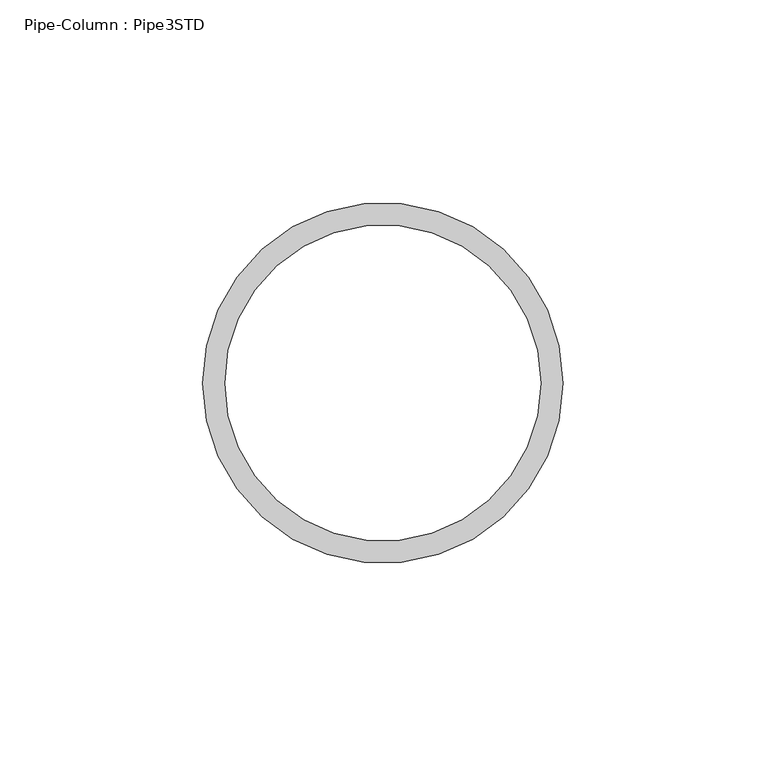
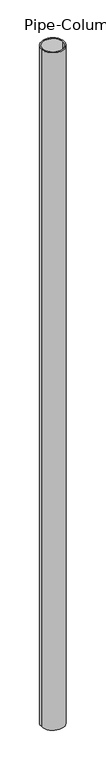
"""IFC4 building model written with IfcOpenShell, lengths in millimetres: column geometry, Pipe-Column : Pipe3STD."""

import ifcopenshell
import ifcopenshell.guid

model = None  # the IFC model being written
_history = None  # IfcOwnerHistory: only IFC2X3 demands one
_inside = {}  # id of a spatial element -> (the spatial element, [elements in it])
_under = {}  # id of a project, library or spatial element -> (it, [spatial elements below it])
_declared = {}  # id of a project -> (the project, [libraries it declares])
_typed = {}  # id of a type object -> (the type object, [elements of that type])
_made_of = {}  # id of a material, layer set ... -> (it, [elements and type objects made of it])


def new_model(schema):
    """Start an empty IFC model of exactly this schema.

    Asked for "IFC4X3", IfcOpenShell would pick the latest addendum, in which some entities
    have other attributes; the version numbers below select the first issue.
    IFC2X3 requires an IfcOwnerHistory on every rooted entity: one is made here for all.
    """
    global model, _history
    if schema == "IFC4X3":
        model = ifcopenshell.file(schema_version=(4, 3, 0, 0))
    else:
        model = ifcopenshell.file(schema=schema)
    _inside.clear()
    _under.clear()
    _declared.clear()
    _typed.clear()
    _made_of.clear()
    _history = None
    if model.schema == "IFC2X3":
        org = make("IfcOrganization", Name="unknown")
        user = make(
            "IfcPersonAndOrganization",
            ThePerson=make("IfcPerson", FamilyName="unknown"),
            TheOrganization=org,
        )
        app = make(
            "IfcApplication",
            ApplicationDeveloper=org,
            Version="unknown",
            ApplicationFullName="unknown",
            ApplicationIdentifier="unknown",
        )
        _history = make(
            "IfcOwnerHistory",
            OwningUser=user,
            OwningApplication=app,
            ChangeAction="ADDED",
            CreationDate=0,
        )
    return model


def make(cls, **values):
    """One entity of the class cls with the attributes given. An attribute that is None is left unset."""
    return model.create_entity(
        cls, **{name: value for name, value in values.items() if value is not None}
    )


def rooted(cls, **values):
    """An entity with a GlobalId (a new one), such as an element, a storey or a relation."""
    return make(cls, GlobalId=ifcopenshell.guid.new(), OwnerHistory=_history, **values)


def si_unit(unit_type, name, prefix=None):
    """IfcSIUnit, for example si_unit("LENGTHUNIT", "METRE", prefix="MILLI")."""
    return make("IfcSIUnit", UnitType=unit_type, Prefix=prefix, Name=name)


def assignment(units):
    """IfcUnitAssignment: the units of a project."""
    return None if units is None else make("IfcUnitAssignment", Units=units)


def point(xyz):
    """IfcCartesianPoint."""
    return None if xyz is None else make("IfcCartesianPoint", Coordinates=xyz)


def direction(xyz):
    """IfcDirection."""
    return None if xyz is None else make("IfcDirection", DirectionRatios=xyz)


def frame(location, z_axis=None, x_axis=None):
    """IfcAxis2Placement3D, a coordinate frame: its origin and axes. An axis left out is left unset."""
    return make(
        "IfcAxis2Placement3D",
        Location=point(location),
        Axis=direction(z_axis),
        RefDirection=direction(x_axis),
    )


def frame_2d(location, x_axis=None):
    """IfcAxis2Placement2D, a coordinate frame in the plane: its origin and x axis."""
    return make(
        "IfcAxis2Placement2D", Location=point(location), RefDirection=direction(x_axis)
    )


def origin():
    """The frame at (0, 0, 0) with its axes left unset."""
    return frame((0.0, 0.0, 0.0))


def origin_2d():
    """The frame at (0, 0) in the plane with its x axis left unset."""
    return frame_2d((0.0, 0.0))


def place(relative_to, where):
    """IfcLocalPlacement: puts the frame where relative to a parent placement (None: the world)."""
    return make(
        "IfcLocalPlacement", PlacementRelTo=relative_to, RelativePlacement=where
    )


def context(
    kind, dimensions, precision=None, world=None, true_north=None, identifier=None
):
    """IfcGeometricRepresentationContext, for example the 3D "Model" context."""
    return make(
        "IfcGeometricRepresentationContext",
        ContextIdentifier=identifier,
        ContextType=kind,
        CoordinateSpaceDimension=dimensions,
        Precision=precision,
        WorldCoordinateSystem=world,
        TrueNorth=true_north,
    )


def project(units=None, contexts=None):
    """IfcProject with its units and contexts."""
    return rooted(
        "IfcProject",
        Name="project",
        RepresentationContexts=contexts,
        UnitsInContext=assignment(units),
    )


def spatial(cls, under=None, at=None, **own):
    """A site, building, storey or space (cls), placed at a placement, below another one or the project."""
    s = rooted(cls, ObjectPlacement=at, **own)
    if under is not None:
        _under.setdefault(under.id(), (under, []))[1].append(s)
    return s


def circle_curve(where, radius):
    """IfcCircle in the frame where."""
    return make("IfcCircle", Position=where, Radius=radius)


def trimmed(basis, trim1, trim2, sense, master):
    """IfcTrimmedCurve: the piece of a basis curve between two trims."""
    return make(
        "IfcTrimmedCurve",
        BasisCurve=basis,
        Trim1=trim1,
        Trim2=trim2,
        SenseAgreement=sense,
        MasterRepresentation=master,
    )


def segment(curve, same_sense, transition):
    """IfcCompositeCurveSegment."""
    return make(
        "IfcCompositeCurveSegment",
        Transition=transition,
        SameSense=same_sense,
        ParentCurve=curve,
    )


def composite_curve(segments, self_intersect=None):
    """IfcCompositeCurve: segments joined end to end."""
    return make("IfcCompositeCurve", Segments=segments, SelfIntersect=self_intersect)


def outline(outer, holes=None, kind="AREA"):
    """IfcArbitraryClosedProfileDef: a profile drawn as a closed curve; with holes, ...WithVoids."""
    if holes is None:
        return make("IfcArbitraryClosedProfileDef", ProfileType=kind, OuterCurve=outer)
    return make(
        "IfcArbitraryProfileDefWithVoids",
        ProfileType=kind,
        OuterCurve=outer,
        InnerCurves=holes,
    )


def extrude(swept, where, along, depth):
    """IfcExtrudedAreaSolid: the profile swept, set in the frame where, extruded along a direction by depth."""
    return make(
        "IfcExtrudedAreaSolid",
        SweptArea=swept,
        Position=where,
        ExtrudedDirection=direction(along),
        Depth=depth,
    )


def shape(context_of_items, identifier, shape_type, items):
    """IfcShapeRepresentation: the items that make up one representation, for example the "Body"."""
    return make(
        "IfcShapeRepresentation",
        ContextOfItems=context_of_items,
        RepresentationIdentifier=identifier,
        RepresentationType=shape_type,
        Items=items,
    )


def source(mapping_origin, context_of_items, identifier, shape_type, items):
    """IfcRepresentationMap: a shape defined once, which mapped items show again and again."""
    return make(
        "IfcRepresentationMap",
        MappingOrigin=mapping_origin,
        MappedRepresentation=shape(context_of_items, identifier, shape_type, items),
    )


def transform(
    local_origin,
    x_axis=None,
    y_axis=None,
    z_axis=None,
    scale=None,
    scale2=None,
    scale3=None,
    uniform=True,
):
    """IfcCartesianTransformationOperator3D, or its non-uniform kind. x_axis, y_axis, z_axis: its Axis1, 2, 3."""
    if uniform:
        return make(
            "IfcCartesianTransformationOperator3D",
            Axis1=direction(x_axis),
            Axis2=direction(y_axis),
            LocalOrigin=point(local_origin),
            Scale=scale,
            Axis3=direction(z_axis),
        )
    return make(
        "IfcCartesianTransformationOperator3DnonUniform",
        Axis1=direction(x_axis),
        Axis2=direction(y_axis),
        LocalOrigin=point(local_origin),
        Scale=scale,
        Axis3=direction(z_axis),
        Scale2=scale2,
        Scale3=scale3,
    )


def mapped(mapping_source, mapping_target):
    """IfcMappedItem: shows the shape of a source again, moved by a transform."""
    return make(
        "IfcMappedItem", MappingSource=mapping_source, MappingTarget=mapping_target
    )


def made_of(thing, what):
    """Note that an element or type object is made of a material, layer set ...; save() writes the relation."""
    if what is not None:
        _made_of.setdefault(what.id(), (what, []))[1].append(thing)
    return thing


def element(
    cls,
    number,
    at=None,
    inside=None,
    cuts=None,
    type_object=None,
    material=None,
    context=None,
    identifier="Body",
    shape_type=None,
    held_by="IfcProductDefinitionShape",
    body=None,
    shapes=None,
    **own,
):
    """One element of the class cls, such as IfcWall. Its Tag is "e" and its number.

    at: its placement. inside: the storey or other place that contains it. cuts: it is an
    opening in that element (IfcRelVoidsElement). A single representation is given by context,
    identifier, shape_type and body (its items); several are given by shapes. held_by: the class
    of the entity that holds the representations. save() writes the other relations.
    """
    e = rooted(cls, Tag="e%d" % number, ObjectPlacement=at, **own)
    if body is not None:
        shapes = [shape(context, identifier, shape_type, body)]
    if shapes is not None:
        e.Representation = make(held_by, Representations=shapes)
    if inside is not None:
        _inside.setdefault(inside.id(), (inside, []))[1].append(e)
    if cuts is not None:
        rooted(
            "IfcRelVoidsElement", RelatingBuildingElement=cuts, RelatedOpeningElement=e
        )
    if type_object is not None:
        _typed.setdefault(type_object.id(), (type_object, []))[1].append(e)
    return made_of(e, material)


def aggregate(whole, parts):
    """IfcRelAggregates: a whole, such as a stair, and the parts it consists of."""
    return rooted("IfcRelAggregates", RelatingObject=whole, RelatedObjects=parts)


def save(model, path):
    """Write the relations noted so far, then the file.

    IfcRelAggregates (storeys below a building ...), IfcRelContainedInSpatialStructure (elements
    in a storey), IfcRelDefinesByType, IfcRelAssociatesMaterial and IfcRelDeclares: one each for
    every whole, place, type object, material and project.
    """
    for whole, parts in _under.values():
        aggregate(whole, parts)
    for where, things in _inside.values():
        rooted(
            "IfcRelContainedInSpatialStructure",
            RelatedElements=things,
            RelatingStructure=where,
        )
    for kind, things in _typed.values():
        rooted("IfcRelDefinesByType", RelatedObjects=things, RelatingType=kind)
    for what, things in _made_of.values():
        rooted("IfcRelAssociatesMaterial", RelatedObjects=things, RelatingMaterial=what)
    for by, libraries in _declared.values():
        rooted("IfcRelDeclares", RelatingContext=by, RelatedDefinitions=libraries)
    model.write(path)


def pipe_column_pipe3std_edaa44f0(model_context):
    return source(origin(), model_context, "Body", "SweptSolid", [
        extrude(outline(composite_curve([segment(trimmed(circle_curve(origin_2d(), 44.45), [point((-44.45, 0.0))], [point((44.45, 0.0))], False, "CARTESIAN"), True, "CONTINUOUS"), segment(trimmed(circle_curve(origin_2d(), 44.45), [point((44.45, 0.0))], [point((-44.45, 0.0))], False, "CARTESIAN"), True, "CONTINUOUS")], self_intersect=False), holes=[composite_curve([segment(trimmed(circle_curve(origin_2d(), 38.9636), [point((-38.9636, 0.0))], [point((38.9636, 0.0))], True, "CARTESIAN"), True, "CONTINUOUS"), segment(trimmed(circle_curve(origin_2d(), 38.9636), [point((38.9636, 0.0))], [point((-38.9636, 0.0))], True, "CARTESIAN"), True, "CONTINUOUS")], self_intersect=False)]), frame((0.0, 0.0, -1187.45), z_axis=(0.0, 0.0, 1.0), x_axis=(1.0, 0.0, 0.0)), (0.0, 0.0, 1.0), 2757.4875),
    ])


if __name__ == "__main__":
    model = new_model("IFC4")
    model_context = context("Model", 3, world=origin())
    ifc_project = project(units=[si_unit("LENGTHUNIT", "METRE", prefix="MILLI")], contexts=[model_context])
    site = spatial("IfcSite", under=ifc_project)
    building = spatial("IfcBuilding", under=site)
    placement = place(None, origin())
    pipe_column_pipe3std_shape = pipe_column_pipe3std_edaa44f0(model_context)
    element("IfcColumn", 1, ObjectType="Pipe-Column : Pipe3STD", at=placement, inside=building, context=model_context, shape_type="MappedRepresentation", body=[
        mapped(pipe_column_pipe3std_shape, transform((0.0, 0.0, 0.0), x_axis=(1.0, 0.0, 0.0), y_axis=(0.0, 1.0, 0.0), z_axis=(0.0, 0.0, 1.0))),
    ])
    save(model, "model.ifc")
